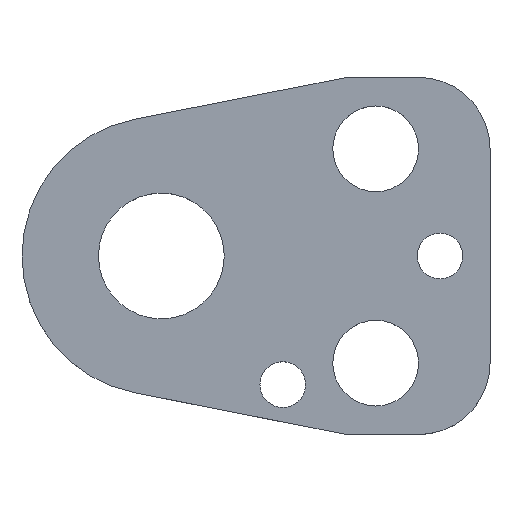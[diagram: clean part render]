
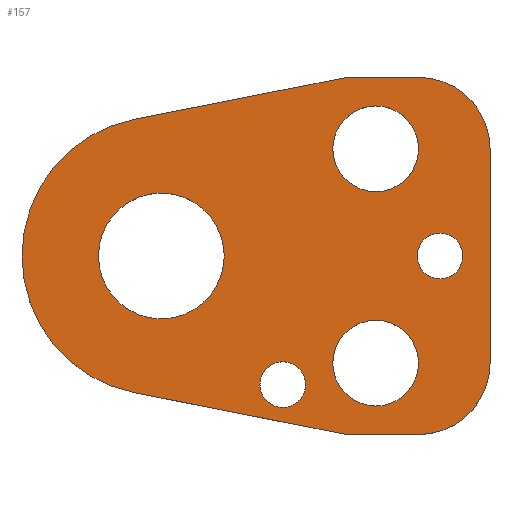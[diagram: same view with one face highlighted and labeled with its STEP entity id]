
A CAD part, top view. The second image highlights one B-rep face of the part: STEP entity #157.
In plain terms, the highlighted planar face has unit normal (0, 0, 1).
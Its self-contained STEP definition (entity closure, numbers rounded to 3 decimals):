
#103=FACE_BOUND('',#207,.T.);
#104=FACE_BOUND('',#208,.T.);
#105=FACE_BOUND('',#209,.T.);
#106=FACE_BOUND('',#210,.T.);
#107=FACE_BOUND('',#211,.T.);
#108=FACE_BOUND('',#212,.T.);
#122=CIRCLE('',#480,10.);
#124=CIRCLE('',#484,10.);
#127=CIRCLE('',#490,19.5);
#138=CIRCLE('',#503,3.2);
#139=CIRCLE('',#504,3.2);
#140=CIRCLE('',#505,6.);
#141=CIRCLE('',#506,6.);
#142=CIRCLE('',#507,6.);
#143=CIRCLE('',#508,6.);
#144=CIRCLE('',#509,3.2);
#145=CIRCLE('',#510,3.2);
#146=CIRCLE('',#511,8.8);
#147=CIRCLE('',#512,8.8);
#157=ADVANCED_FACE('',(#103,#104,#105,#106,#107,#108),#174,.T.);
#174=PLANE('',#513);
#207=EDGE_LOOP('',(#273,#274,#275,#276,#277,#278,#279,#280));
#208=EDGE_LOOP('',(#281,#282));
#209=EDGE_LOOP('',(#283,#284));
#210=EDGE_LOOP('',(#285,#286));
#211=EDGE_LOOP('',(#287,#288));
#212=EDGE_LOOP('',(#289,#290));
#273=ORIENTED_EDGE('',*,*,#368,.T.);
#274=ORIENTED_EDGE('',*,*,#372,.T.);
#275=ORIENTED_EDGE('',*,*,#375,.T.);
#276=ORIENTED_EDGE('',*,*,#378,.T.);
#277=ORIENTED_EDGE('',*,*,#381,.T.);
#278=ORIENTED_EDGE('',*,*,#384,.T.);
#279=ORIENTED_EDGE('',*,*,#387,.T.);
#280=ORIENTED_EDGE('',*,*,#390,.T.);
#281=ORIENTED_EDGE('',*,*,#401,.T.);
#282=ORIENTED_EDGE('',*,*,#402,.T.);
#283=ORIENTED_EDGE('',*,*,#403,.T.);
#284=ORIENTED_EDGE('',*,*,#404,.T.);
#285=ORIENTED_EDGE('',*,*,#405,.T.);
#286=ORIENTED_EDGE('',*,*,#406,.T.);
#287=ORIENTED_EDGE('',*,*,#407,.T.);
#288=ORIENTED_EDGE('',*,*,#408,.T.);
#289=ORIENTED_EDGE('',*,*,#409,.T.);
#290=ORIENTED_EDGE('',*,*,#410,.T.);
#332=VERTEX_POINT('',#649);
#333=VERTEX_POINT('',#651);
#336=VERTEX_POINT('',#658);
#338=VERTEX_POINT('',#664);
#340=VERTEX_POINT('',#670);
#342=VERTEX_POINT('',#676);
#344=VERTEX_POINT('',#682);
#346=VERTEX_POINT('',#688);
#357=VERTEX_POINT('',#717);
#358=VERTEX_POINT('',#718);
#359=VERTEX_POINT('',#721);
#360=VERTEX_POINT('',#722);
#361=VERTEX_POINT('',#725);
#362=VERTEX_POINT('',#726);
#363=VERTEX_POINT('',#729);
#364=VERTEX_POINT('',#730);
#365=VERTEX_POINT('',#733);
#366=VERTEX_POINT('',#734);
#368=EDGE_CURVE('',#333,#332,#422,.T.);
#372=EDGE_CURVE('',#332,#336,#426,.T.);
#375=EDGE_CURVE('',#336,#338,#122,.T.);
#378=EDGE_CURVE('',#338,#340,#430,.T.);
#381=EDGE_CURVE('',#340,#342,#124,.T.);
#384=EDGE_CURVE('',#342,#344,#434,.T.);
#387=EDGE_CURVE('',#344,#346,#437,.T.);
#390=EDGE_CURVE('',#346,#333,#127,.T.);
#401=EDGE_CURVE('',#357,#358,#138,.T.);
#402=EDGE_CURVE('',#358,#357,#139,.T.);
#403=EDGE_CURVE('',#359,#360,#140,.T.);
#404=EDGE_CURVE('',#360,#359,#141,.T.);
#405=EDGE_CURVE('',#361,#362,#142,.T.);
#406=EDGE_CURVE('',#362,#361,#143,.T.);
#407=EDGE_CURVE('',#363,#364,#144,.T.);
#408=EDGE_CURVE('',#364,#363,#145,.T.);
#409=EDGE_CURVE('',#365,#366,#146,.T.);
#410=EDGE_CURVE('',#366,#365,#147,.T.);
#422=LINE('',#650,#450);
#426=LINE('',#659,#454);
#430=LINE('',#671,#458);
#434=LINE('',#683,#462);
#437=LINE('',#689,#465);
#450=VECTOR('',#527,1.);
#454=VECTOR('',#533,1.);
#458=VECTOR('',#545,1.);
#462=VECTOR('',#557,1.);
#465=VECTOR('',#562,1.);
#480=AXIS2_PLACEMENT_3D('',#665,#538,#539);
#484=AXIS2_PLACEMENT_3D('',#677,#550,#551);
#490=AXIS2_PLACEMENT_3D('',#693,#568,#569);
#503=AXIS2_PLACEMENT_3D('',#716,#594,#595);
#504=AXIS2_PLACEMENT_3D('',#719,#596,#597);
#505=AXIS2_PLACEMENT_3D('',#720,#598,#599);
#506=AXIS2_PLACEMENT_3D('',#723,#600,#601);
#507=AXIS2_PLACEMENT_3D('',#724,#602,#603);
#508=AXIS2_PLACEMENT_3D('',#727,#604,#605);
#509=AXIS2_PLACEMENT_3D('',#728,#606,#607);
#510=AXIS2_PLACEMENT_3D('',#731,#608,#609);
#511=AXIS2_PLACEMENT_3D('',#732,#610,#611);
#512=AXIS2_PLACEMENT_3D('',#735,#612,#613);
#513=AXIS2_PLACEMENT_3D('',#736,#614,#615);
#527=DIRECTION('',(0.981,-0.193,0.));
#533=DIRECTION('',(1.,0.,0.));
#538=DIRECTION('',(0.,0.,1.));
#539=DIRECTION('',(-0.707,0.707,0.));
#545=DIRECTION('',(0.,1.,0.));
#550=DIRECTION('',(0.,0.,1.));
#551=DIRECTION('',(-0.707,-0.707,0.));
#557=DIRECTION('',(-1.,0.,0.));
#562=DIRECTION('',(-0.981,-0.193,0.));
#568=DIRECTION('',(0.,0.,1.));
#569=DIRECTION('',(1.,0.,0.));
#594=DIRECTION('',(0.,0.,-1.));
#595=DIRECTION('',(-1.,0.,0.));
#596=DIRECTION('',(0.,0.,-1.));
#597=DIRECTION('',(1.,0.,0.));
#598=DIRECTION('',(0.,0.,-1.));
#599=DIRECTION('',(-1.,0.,0.));
#600=DIRECTION('',(0.,0.,-1.));
#601=DIRECTION('',(1.,0.,0.));
#602=DIRECTION('',(0.,0.,-1.));
#603=DIRECTION('',(-1.,0.,0.));
#604=DIRECTION('',(0.,0.,-1.));
#605=DIRECTION('',(1.,0.,0.));
#606=DIRECTION('',(0.,0.,-1.));
#607=DIRECTION('',(-1.,0.,0.));
#608=DIRECTION('',(0.,0.,-1.));
#609=DIRECTION('',(1.,0.,0.));
#610=DIRECTION('',(0.,0.,-1.));
#611=DIRECTION('',(-1.,0.,0.));
#612=DIRECTION('',(0.,0.,-1.));
#613=DIRECTION('',(1.,0.,0.));
#614=DIRECTION('',(0.,0.,1.));
#615=DIRECTION('',(0.981,-0.193,0.));
#649=CARTESIAN_POINT('',(26.,-25.,5.));
#650=CARTESIAN_POINT('',(26.,-25.,5.));
#651=CARTESIAN_POINT('',(-3.771,-19.132,5.));
#658=CARTESIAN_POINT('',(36.,-25.,5.));
#659=CARTESIAN_POINT('',(26.,-25.,5.));
#664=CARTESIAN_POINT('',(46.,-15.,5.));
#665=CARTESIAN_POINT('',(36.,-15.,5.));
#670=CARTESIAN_POINT('',(46.,15.,5.));
#671=CARTESIAN_POINT('',(46.,15.,5.));
#676=CARTESIAN_POINT('',(36.,25.,5.));
#677=CARTESIAN_POINT('',(36.,15.,5.));
#682=CARTESIAN_POINT('',(26.,25.,5.));
#683=CARTESIAN_POINT('',(26.,25.,5.));
#688=CARTESIAN_POINT('',(-3.771,19.132,5.));
#689=CARTESIAN_POINT('',(26.,25.,5.));
#693=CARTESIAN_POINT('',(0.,0.,5.));
#716=CARTESIAN_POINT('',(39.,0.,5.));
#717=CARTESIAN_POINT('',(39.,3.2,5.));
#718=CARTESIAN_POINT('',(39.,-3.2,5.));
#719=CARTESIAN_POINT('',(39.,0.,5.));
#720=CARTESIAN_POINT('',(30.,15.,5.));
#721=CARTESIAN_POINT('',(30.,21.,5.));
#722=CARTESIAN_POINT('',(30.,9.,5.));
#723=CARTESIAN_POINT('',(30.,15.,5.));
#724=CARTESIAN_POINT('',(30.,-15.,5.));
#725=CARTESIAN_POINT('',(30.,-9.,5.));
#726=CARTESIAN_POINT('',(30.,-21.,5.));
#727=CARTESIAN_POINT('',(30.,-15.,5.));
#728=CARTESIAN_POINT('',(17.,-18.,5.));
#729=CARTESIAN_POINT('',(17.,-14.8,5.));
#730=CARTESIAN_POINT('',(17.,-21.2,5.));
#731=CARTESIAN_POINT('',(17.,-18.,5.));
#732=CARTESIAN_POINT('',(0.,0.,5.));
#733=CARTESIAN_POINT('',(0.,8.8,5.));
#734=CARTESIAN_POINT('',(0.,-8.8,5.));
#735=CARTESIAN_POINT('',(0.,0.,5.));
#736=CARTESIAN_POINT('',(-3.771,-19.132,5.));
